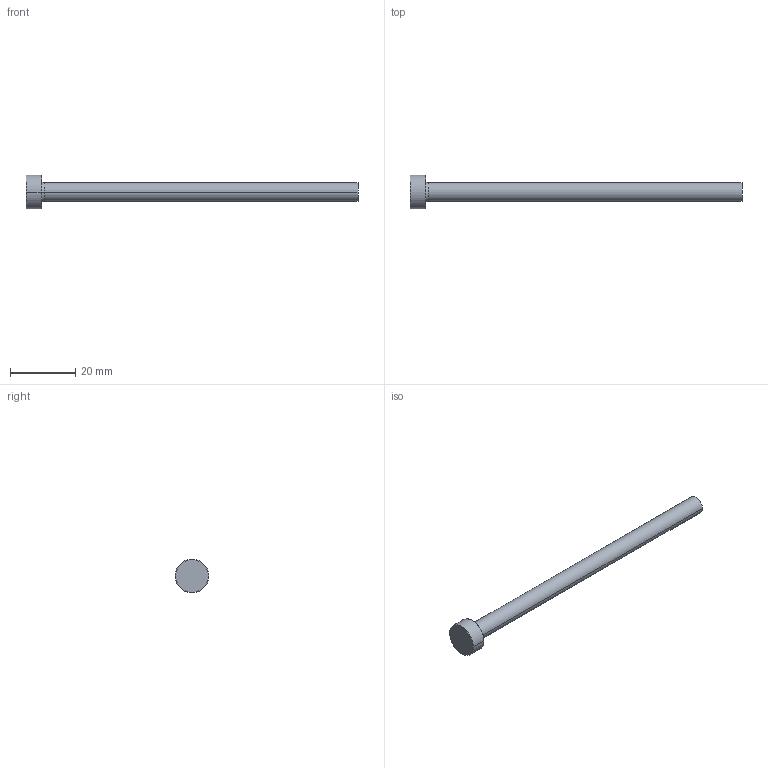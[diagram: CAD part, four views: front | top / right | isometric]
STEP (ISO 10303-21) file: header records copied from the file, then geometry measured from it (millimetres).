
FILE_DESCRIPTION (( 'STEP AP214' ), '1' );
FILE_NAME ('P15-4.STEP', '2020-03-11T18:29:28', ( '' ), ( '' ), 'SwSTEP 2.0', 'SolidWorks 2018', '' );
FILE_SCHEMA (( 'AUTOMOTIVE_DESIGN' ));
Length unit declared in the file: inch
Products named in the file (1): P15-4
Bounding box: 101.6 x 10.32 x 10.32 mm (x, y, z)
Volume: 2741.8 mm3; surface area: 2000.3 mm2
Topology: 1 solids, 1 shells, 13 faces, 24 edges, 14 vertices
Faces by surface type: cone 4, cylinder 4, plane 3, torus 2
Entity records: 366 total; most frequent: DIRECTION 68, CARTESIAN_POINT 52, ORIENTED_EDGE 48, AXIS2_PLACEMENT_3D 30, EDGE_CURVE 24, CIRCLE 16, EDGE_LOOP 14, VERTEX_POINT 14
